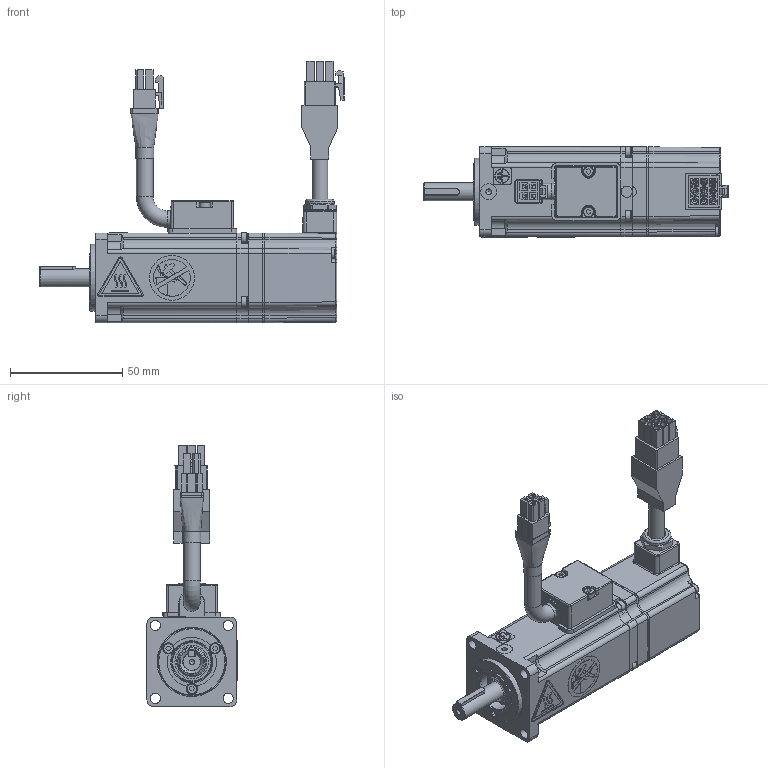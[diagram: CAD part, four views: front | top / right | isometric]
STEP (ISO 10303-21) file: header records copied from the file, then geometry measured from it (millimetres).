
FILE_DESCRIPTION( ( 'Unknown' ), '1' );
FILE_NAME( 'U:/05_Progetto TCE/010-TCE motor drawings/TCE40/Vuoti/TCE40 1B XX 3 A1 0 D0.stp', 'Unknown', ( 'Unknown' ), ( 'Unknown' ), 'PSStep 17.0.49', 'Unknown', ' ' );
FILE_SCHEMA( ( 'AUTOMOTIVE_DESIGN { 1 0 10303 214 1 1 1 1 }' ) );
Length unit declared in the file: millimetre
Products named in the file (44): 003108015151_curva; 003303000375; 005453000452_D7,4; 007102000222; 001107000616; 003303000025; 003711000103; 005603001004; cavo cablato x campana TCE - SICK; U5190002_vuoto; 005911000598; 001799000503; 003120002501; Assem1; 005123000992; 005119000350; 005911000185; 005911003639; 005123000910; 003103001500; 003155000300; 003251022000; 005204000002; 005113000108; 005204000004; 005204000001; 005007000082; 005008000104-oa0; 005008000104-oa1; 005008000134-oa2; 005008000134-oa3; 005008000134-oa4; 005009002005; 003155000305; 003303000377; 003911000274; 003003050001
Assembly tree (53 placements, depth 4):
  Assem1
    005123000992
    005123000992
    005119000350
    005119000350
    005911000185  x7
    005911003639  x3
    005123000910
    005123000910
    003103001500
    003155000300
    003251022000
    005204000002
    005113000108
    005204000004
    005204000001
    005007000082
    005008000104-oa0
    005008000104-oa1
    005008000134-oa2
    005008000134-oa3
    005008000134-oa4
    005009002005
    003155000305
    003303000377
    003911000274  x2
    003003050001
    007102000222
      001107000616
      003303000025
      003711000103
      005603001004
      cavo cablato x campana TCE - SICK
      cavo cablato x campana TCE - SICK
    U5190002_vuoto
      005911000598  x2
      001799000503
      003120002501
      003108015151_curva
        003303000375
        005453000452_D7,4
        003108015151_curva
        003108015151_curva
        003108015151_curva
Bounding box: 135.9 x 40.4 x 116.8 mm (x, y, z)
Volume: 79550.7 mm3; surface area: 80837.1 mm2
Topology: 50 solids, 50 shells, 2006 faces, 5074 edges, 3282 vertices
Faces by surface type: plane 1261, cylinder 436, cone 101, torus 87, bspline 64, extrusion 37, sphere 20
Full cylindrical faces by diameter (mm): 1 x1, 2.013 x22, 2.459 x11, 2.5 x16, 2.6 x9, 2.7 x16, 2.8 x2, 4.2 x2, 4.5 x4, 4.7 x12, 5 x6, 5.99 x1, 6 x3, 6.1 x1, 6.5 x1, 6.8 x1, 7 x3, 7.1 x1, 7.2 x1, 7.25 x1, 7.4 x2, 7.41 x1, 7.99 x1, 8 x3, 8.01 x1, 10 x1, 10.16 x2, 10.3 x2, 10.647 x1, 11 x1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
Entity records: 74659 total; most frequent: CARTESIAN_POINT 16822, DIRECTION 8747, ORIENTED_EDGE 8618, EDGE_CURVE 4309, VECTOR 3003, VERTEX_POINT 2978, LINE 2966, AXIS2_PLACEMENT_3D 2872
